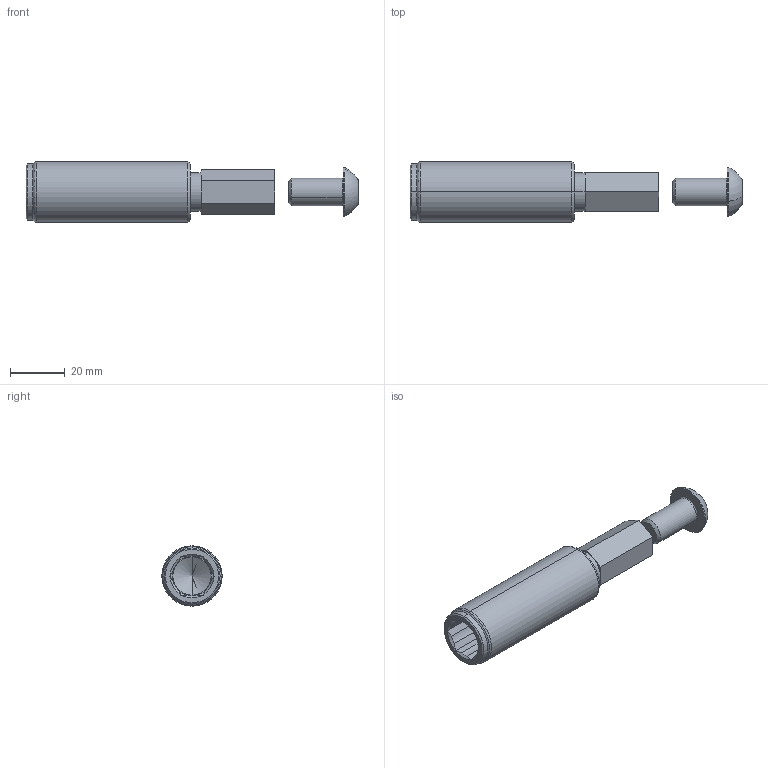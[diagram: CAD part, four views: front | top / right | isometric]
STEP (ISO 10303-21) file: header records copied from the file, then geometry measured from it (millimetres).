
FILE_DESCRIPTION (( 'STEP AP214' ), '1' );
FILE_NAME ('6921685512140.STEP', '2018-08-09T07:36:34', ( '' ), ( '' ), 'SwSTEP 2.0', 'SolidWorks 2016', '' );
FILE_SCHEMA (( 'AUTOMOTIVE_DESIGN' ));
Length unit declared in the file: millimetre
Products named in the file (3): 6921685512140; 8022510020820_<standard>
Assembly tree (2 placements, depth 2):
  6921685512140
    6921685512140
    8022510020820_<standard>
Bounding box: 121.35 x 22 x 22 mm (x, y, z)
Volume: 24676.3 mm3; surface area: 9358 mm2
Topology: 2 solids, 2 shells, 98 faces, 241 edges, 148 vertices
Faces by surface type: plane 44, cylinder 23, cone 19, torus 10, sphere 2
Entity records: 3090 total; most frequent: CARTESIAN_POINT 622, DIRECTION 514, ORIENTED_EDGE 470, EDGE_CURVE 235, AXIS2_PLACEMENT_3D 200, VERTEX_POINT 148, LINE 114, VECTOR 114
